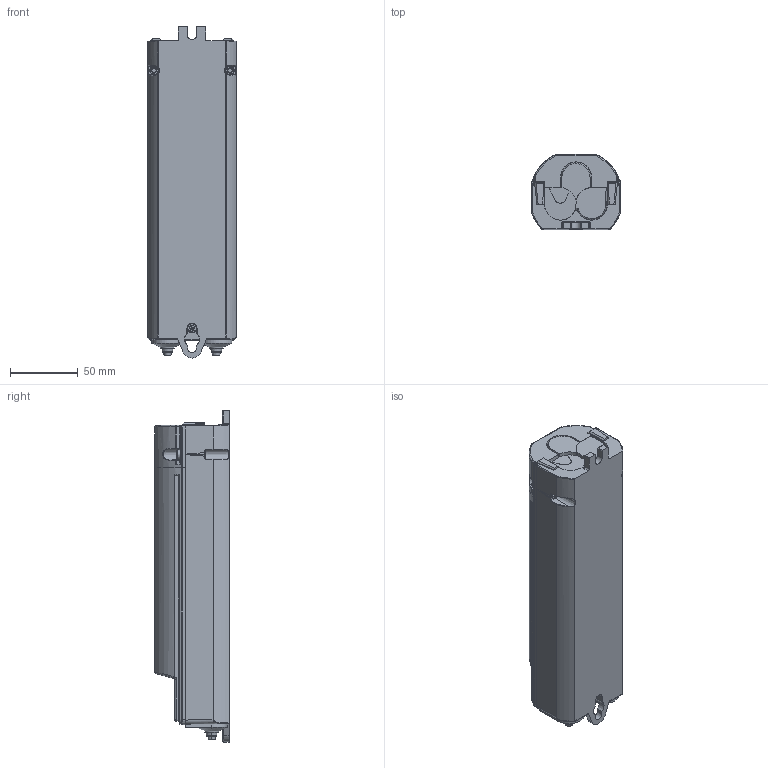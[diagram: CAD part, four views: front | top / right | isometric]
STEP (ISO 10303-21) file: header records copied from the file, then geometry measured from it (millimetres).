
FILE_DESCRIPTION (( 'STEP AP214' ), '1' );
FILE_NAME ('3D - HSW1998 komplett.STEP', '2023-11-21T07:49:22', ( '' ), ( '' ), 'SwSTEP 2.0', 'SolidWorks 2022', '' );
FILE_SCHEMA (( 'AUTOMOTIVE_DESIGN' ));
Length unit declared in the file: millimetre
Products named in the file (1): 3D - HSW1998 komplett
Bounding box: 65.5 x 55 x 245 mm (x, y, z)
Surface area: 60352.9 mm2 (no closed solid volume)
Topology: 0 solids, 13 shells, 910 faces, 2798 edges, 1859 vertices
Faces by surface type: plane 424, bspline 238, cylinder 158, cone 44, torus 36, sphere 10
Entity records: 53022 total; most frequent: CARTESIAN_POINT 20488, ORIENTED_EDGE 4896, DIRECTION 3875, EDGE_CURVE 2782, VERTEX_POINT 1859, VECTOR 1601, LINE 1601, AXIS2_PLACEMENT_3D 1137
